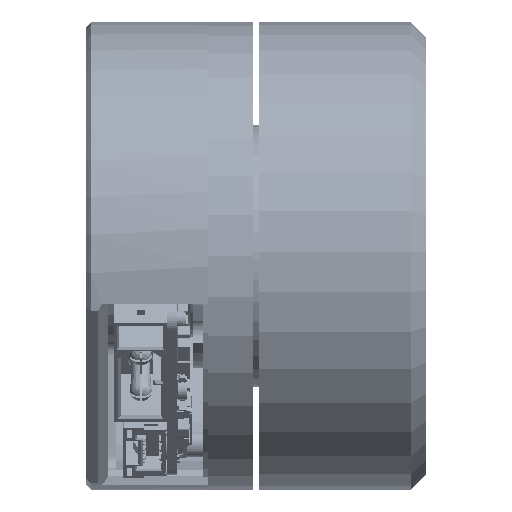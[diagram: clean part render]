
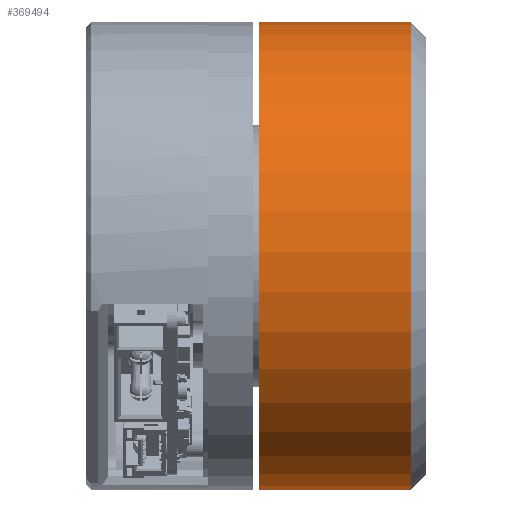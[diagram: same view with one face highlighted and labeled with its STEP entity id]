
A CAD part, front view. The second image highlights one B-rep face of the part: STEP entity #369494.
In plain terms, the highlighted cylindrical face has radius 23.05 mm (diameter 46.1 mm), a partial arc.
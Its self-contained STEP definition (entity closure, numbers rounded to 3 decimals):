
#4459 = CARTESIAN_POINT ( 'NONE',  ( 22.372, 1.424, 46.5 ) ) ;
#14483 = VERTEX_POINT ( 'NONE', #480779 ) ;
#24361 = EDGE_CURVE ( 'NONE', #294748, #14483, #383144, .T. ) ;
#28494 = CARTESIAN_POINT ( 'NONE',  ( 20.872, 1.848, 69.546 ) ) ;
#40182 = DIRECTION ( 'NONE',  ( 0., -0.018, -1. ) ) ;
#45970 = EDGE_CURVE ( 'NONE', #246813, #14483, #236567, .T. ) ;
#66707 = DIRECTION ( 'NONE',  ( -1., 0., 0. ) ) ;
#72061 = LINE ( 'NONE', #156871, #482204 ) ;
#74321 = CARTESIAN_POINT ( 'NONE',  ( 22.372, 1., 23.454 ) ) ;
#83947 = DIRECTION ( 'NONE',  ( -1., 0., 0. ) ) ;
#105623 = CARTESIAN_POINT ( 'NONE',  ( 7.372, 1., 23.454 ) ) ;
#115088 = AXIS2_PLACEMENT_3D ( 'NONE', #297419, #130481, #384915 ) ;
#130481 = DIRECTION ( 'NONE',  ( 1., 0., 0. ) ) ;
#147192 = AXIS2_PLACEMENT_3D ( 'NONE', #4459, #83947, #40182 ) ;
#151440 = CARTESIAN_POINT ( 'NONE',  ( 7.372, 1.424, 46.5 ) ) ;
#156871 = CARTESIAN_POINT ( 'NONE',  ( 20.872, 1., 23.454 ) ) ;
#164960 = VERTEX_POINT ( 'NONE', #105623 ) ;
#192550 = CIRCLE ( 'NONE', #297308, 23.05 ) ;
#195475 = CARTESIAN_POINT ( 'NONE',  ( 7.372, 1.848, 69.546 ) ) ;
#217463 = ORIENTED_EDGE ( 'NONE', *, *, #537537, .F. ) ;
#217966 = CYLINDRICAL_SURFACE ( 'NONE', #115088, 23.05 ) ;
#230898 = DIRECTION ( 'NONE',  ( 0., 1., -0.028 ) ) ;
#236567 = LINE ( 'NONE', #28494, #239761 ) ;
#239761 = VECTOR ( 'NONE', #537426, 1000. ) ;
#246813 = VERTEX_POINT ( 'NONE', #195475 ) ;
#261502 = ORIENTED_EDGE ( 'NONE', *, *, #489405, .T. ) ;
#261743 = ORIENTED_EDGE ( 'NONE', *, *, #45970, .F. ) ;
#294748 = VERTEX_POINT ( 'NONE', #74321 ) ;
#297308 = AXIS2_PLACEMENT_3D ( 'NONE', #151440, #66707, #230898 ) ;
#297419 = CARTESIAN_POINT ( 'NONE',  ( 20.872, 1.424, 46.5 ) ) ;
#369494 = ADVANCED_FACE ( 'NONE', ( #505409 ), #217966, .T. ) ;
#383144 = CIRCLE ( 'NONE', #147192, 23.05 ) ;
#384915 = DIRECTION ( 'NONE',  ( 0., 0.018, 1. ) ) ;
#403261 = DIRECTION ( 'NONE',  ( 1., 0., 0. ) ) ;
#432374 = ORIENTED_EDGE ( 'NONE', *, *, #24361, .T. ) ;
#435443 = EDGE_LOOP ( 'NONE', ( #217463, #261502, #432374, #261743 ) ) ;
#480779 = CARTESIAN_POINT ( 'NONE',  ( 22.372, 1.848, 69.546 ) ) ;
#482204 = VECTOR ( 'NONE', #403261, 1000. ) ;
#489405 = EDGE_CURVE ( 'NONE', #164960, #294748, #72061, .T. ) ;
#505409 = FACE_OUTER_BOUND ( 'NONE', #435443, .T. ) ;
#537426 = DIRECTION ( 'NONE',  ( 1., 0., 0. ) ) ;
#537537 = EDGE_CURVE ( 'NONE', #164960, #246813, #192550, .T. ) ;
